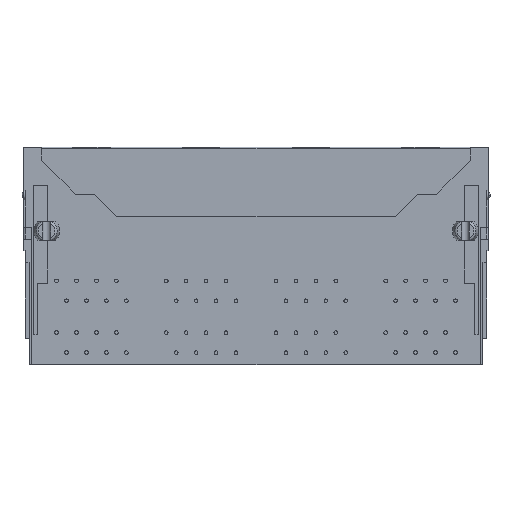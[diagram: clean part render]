
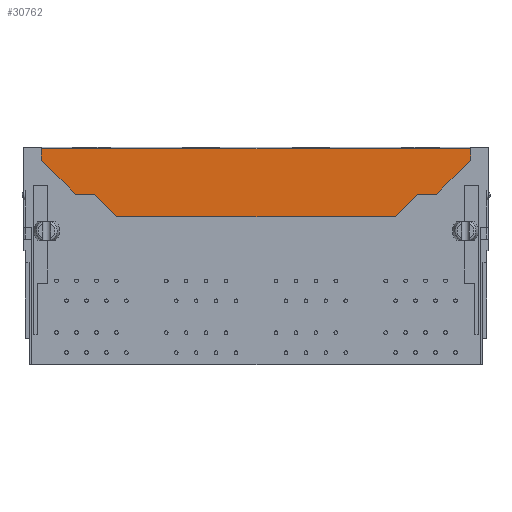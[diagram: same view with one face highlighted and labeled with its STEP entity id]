
A CAD part, front view. The second image highlights one B-rep face of the part: STEP entity #30762.
In plain terms, the highlighted planar face has unit normal (0, -1, 0).
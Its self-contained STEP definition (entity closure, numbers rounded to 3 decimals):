
#456 = ORIENTED_EDGE ( 'NONE', *, *, #10777, .F. ) ;
#544 = LINE ( 'NONE', #26503, #21533 ) ;
#978 = FACE_OUTER_BOUND ( 'NONE', #16393, .T. ) ;
#1443 = DIRECTION ( 'NONE',  ( -1., 0., 0. ) ) ;
#1723 = CARTESIAN_POINT ( 'NONE',  ( -3.415, -13.722, 13.675 ) ) ;
#1857 = CARTESIAN_POINT ( 'NONE',  ( -21.83, -13.722, 7.875 ) ) ;
#2298 = CARTESIAN_POINT ( 'NONE',  ( -21.83, -13.722, 7.875 ) ) ;
#2884 = DIRECTION ( 'NONE',  ( 0., 0., 1. ) ) ;
#3266 = ORIENTED_EDGE ( 'NONE', *, *, #4175, .F. ) ;
#3279 = LINE ( 'NONE', #26081, #36251 ) ;
#3389 = CARTESIAN_POINT ( 'NONE',  ( -17.385, -13.722, 13.675 ) ) ;
#3394 = VECTOR ( 'NONE', #12851, 1000. ) ;
#3419 = LINE ( 'NONE', #20255, #3429 ) ;
#3429 = VECTOR ( 'NONE', #2884, 1000. ) ;
#3450 = DIRECTION ( 'NONE',  ( -1., 0., 0. ) ) ;
#3453 = EDGE_CURVE ( 'NONE', #5558, #27818, #5078, .T. ) ;
#3585 = ORIENTED_EDGE ( 'NONE', *, *, #30915, .F. ) ;
#3896 = EDGE_CURVE ( 'NONE', #29318, #6727, #9897, .T. ) ;
#3957 = DIRECTION ( 'NONE',  ( 0., 0., 1. ) ) ;
#4175 = EDGE_CURVE ( 'NONE', #14484, #7098, #6664, .T. ) ;
#4536 = ORIENTED_EDGE ( 'NONE', *, *, #35418, .F. ) ;
#4713 = DIRECTION ( 'NONE',  ( 1., 0., 0. ) ) ;
#4977 = DIRECTION ( 'NONE',  ( 1., 0., 0. ) ) ;
#5030 = DIRECTION ( 'NONE',  ( -1., 0., 0. ) ) ;
#5078 = LINE ( 'NONE', #1723, #34756 ) ;
#5172 = CARTESIAN_POINT ( 'NONE',  ( -16.58, -13.722, 4.975 ) ) ;
#5355 = CARTESIAN_POINT ( 'NONE',  ( 24.525, -13.722, 13.675 ) ) ;
#5492 = CARTESIAN_POINT ( 'NONE',  ( -26.15, -13.722, 13.675 ) ) ;
#5558 = VERTEX_POINT ( 'NONE', #22928 ) ;
#6577 = VECTOR ( 'NONE', #28278, 1000. ) ;
#6664 = LINE ( 'NONE', #20334, #34781 ) ;
#6710 = EDGE_CURVE ( 'NONE', #7098, #6727, #3419, .T. ) ;
#6727 = VERTEX_POINT ( 'NONE', #5492 ) ;
#6832 = ORIENTED_EDGE ( 'NONE', *, *, #28561, .F. ) ;
#7098 = VERTEX_POINT ( 'NONE', #17227 ) ;
#7584 = CARTESIAN_POINT ( 'NONE',  ( -8.215, -13.722, 13.675 ) ) ;
#7715 = LINE ( 'NONE', #2298, #6577 ) ;
#7779 = DIRECTION ( 'NONE',  ( -1., 0., 0. ) ) ;
#8303 = LINE ( 'NONE', #19714, #31412 ) ;
#8341 = LINE ( 'NONE', #5355, #30804 ) ;
#8346 = VERTEX_POINT ( 'NONE', #10939 ) ;
#8352 = CARTESIAN_POINT ( 'NONE',  ( 24.525, -13.722, 13.675 ) ) ;
#8490 = ORIENTED_EDGE ( 'NONE', *, *, #8745, .F. ) ;
#8745 = EDGE_CURVE ( 'NONE', #29318, #15574, #17919, .T. ) ;
#9446 = VECTOR ( 'NONE', #3450, 1000. ) ;
#9838 = DIRECTION ( 'NONE',  ( -0.695, 0., -0.719 ) ) ;
#9897 = LINE ( 'NONE', #30083, #33571 ) ;
#10227 = LINE ( 'NONE', #12843, #26793 ) ;
#10694 = VECTOR ( 'NONE', #16810, 1000. ) ;
#10761 = ORIENTED_EDGE ( 'NONE', *, *, #27960, .T. ) ;
#10777 = EDGE_CURVE ( 'NONE', #25885, #14484, #7715, .T. ) ;
#10939 = CARTESIAN_POINT ( 'NONE',  ( 28.49, -13.722, 12.195 ) ) ;
#10957 = LINE ( 'NONE', #7584, #21383 ) ;
#11018 = CARTESIAN_POINT ( 'NONE',  ( 24.17, -13.722, 7.875 ) ) ;
#12055 = LINE ( 'NONE', #29060, #9446 ) ;
#12123 = DIRECTION ( 'NONE',  ( -1., 0., 0. ) ) ;
#12843 = CARTESIAN_POINT ( 'NONE',  ( -16.58, -13.722, 4.975 ) ) ;
#12851 = DIRECTION ( 'NONE',  ( -0.695, 0., 0.719 ) ) ;
#12956 = ORIENTED_EDGE ( 'NONE', *, *, #29023, .F. ) ;
#13125 = LINE ( 'NONE', #24519, #31405 ) ;
#13144 = EDGE_CURVE ( 'NONE', #32129, #27818, #10957, .T. ) ;
#13424 = EDGE_CURVE ( 'NONE', #17184, #19678, #12055, .T. ) ;
#14115 = DIRECTION ( 'NONE',  ( 0., 0., -1. ) ) ;
#14484 = VERTEX_POINT ( 'NONE', #1857 ) ;
#15115 = ORIENTED_EDGE ( 'NONE', *, *, #3896, .T. ) ;
#15574 = VERTEX_POINT ( 'NONE', #3389 ) ;
#15893 = EDGE_CURVE ( 'NONE', #32129, #15574, #544, .T. ) ;
#15905 = VECTOR ( 'NONE', #26232, 1000. ) ;
#16109 = VERTEX_POINT ( 'NONE', #8352 ) ;
#16393 = EDGE_LOOP ( 'NONE', ( #8490, #15115, #25648, #3266, #456, #12956, #27890, #24165, #4536, #6832, #16506, #10761, #26961, #25010, #3585, #20342, #18680, #27378 ) ) ;
#16493 = CARTESIAN_POINT ( 'NONE',  ( -8.215, -13.722, 13.675 ) ) ;
#16506 = ORIENTED_EDGE ( 'NONE', *, *, #28420, .F. ) ;
#16810 = DIRECTION ( 'NONE',  ( -1., 0., 0. ) ) ;
#17184 = VERTEX_POINT ( 'NONE', #29316 ) ;
#17227 = CARTESIAN_POINT ( 'NONE',  ( -26.15, -13.722, 12.195 ) ) ;
#17919 = LINE ( 'NONE', #23712, #26164 ) ;
#18037 = DIRECTION ( 'NONE',  ( 1., 0., 0. ) ) ;
#18261 = CARTESIAN_POINT ( 'NONE',  ( -3.415, -13.722, 13.675 ) ) ;
#18353 = CARTESIAN_POINT ( 'NONE',  ( -28.43, -13.722, 13.875 ) ) ;
#18680 = ORIENTED_EDGE ( 'NONE', *, *, #13144, .F. ) ;
#18826 = AXIS2_PLACEMENT_3D ( 'NONE', #18353, #23781, #3957 ) ;
#19512 = CARTESIAN_POINT ( 'NONE',  ( 21.72, -13.722, 7.875 ) ) ;
#19678 = VERTEX_POINT ( 'NONE', #35132 ) ;
#19714 = CARTESIAN_POINT ( 'NONE',  ( 28.49, -13.722, 13.875 ) ) ;
#20082 = VERTEX_POINT ( 'NONE', #26662 ) ;
#20255 = CARTESIAN_POINT ( 'NONE',  ( -26.15, -13.722, 13.875 ) ) ;
#20334 = CARTESIAN_POINT ( 'NONE',  ( -26.15, -13.722, 12.195 ) ) ;
#20342 = ORIENTED_EDGE ( 'NONE', *, *, #3453, .T. ) ;
#20524 = DIRECTION ( 'NONE',  ( -0.707, 0., 0.707 ) ) ;
#20625 = CARTESIAN_POINT ( 'NONE',  ( 28.49, -13.722, 12.195 ) ) ;
#21383 = VECTOR ( 'NONE', #4977, 1000. ) ;
#21527 = DIRECTION ( 'NONE',  ( -1., 0., 0. ) ) ;
#21533 = VECTOR ( 'NONE', #12123, 1000. ) ;
#22163 = VERTEX_POINT ( 'NONE', #26524 ) ;
#22928 = CARTESIAN_POINT ( 'NONE',  ( 5.755, -13.722, 13.675 ) ) ;
#23635 = VECTOR ( 'NONE', #9838, 1000. ) ;
#23712 = CARTESIAN_POINT ( 'NONE',  ( -22.185, -13.722, 13.675 ) ) ;
#23781 = DIRECTION ( 'NONE',  ( 0., 1., 0. ) ) ;
#24021 = VERTEX_POINT ( 'NONE', #5172 ) ;
#24044 = LINE ( 'NONE', #29649, #23635 ) ;
#24165 = ORIENTED_EDGE ( 'NONE', *, *, #29855, .F. ) ;
#24519 = CARTESIAN_POINT ( 'NONE',  ( 5.755, -13.722, 13.675 ) ) ;
#24616 = CARTESIAN_POINT ( 'NONE',  ( 28.49, -13.722, 13.675 ) ) ;
#25010 = ORIENTED_EDGE ( 'NONE', *, *, #13424, .T. ) ;
#25479 = VERTEX_POINT ( 'NONE', #19512 ) ;
#25648 = ORIENTED_EDGE ( 'NONE', *, *, #6710, .F. ) ;
#25885 = VERTEX_POINT ( 'NONE', #33289 ) ;
#26081 = CARTESIAN_POINT ( 'NONE',  ( 19.725, -13.722, 13.675 ) ) ;
#26164 = VECTOR ( 'NONE', #32302, 1000. ) ;
#26232 = DIRECTION ( 'NONE',  ( -0.707, 0., -0.707 ) ) ;
#26503 = CARTESIAN_POINT ( 'NONE',  ( -17.385, -13.722, 13.675 ) ) ;
#26524 = CARTESIAN_POINT ( 'NONE',  ( 18.92, -13.722, 4.975 ) ) ;
#26582 = VERTEX_POINT ( 'NONE', #24616 ) ;
#26662 = CARTESIAN_POINT ( 'NONE',  ( 24.17, -13.722, 7.875 ) ) ;
#26793 = VECTOR ( 'NONE', #1443, 1000. ) ;
#26961 = ORIENTED_EDGE ( 'NONE', *, *, #34391, .F. ) ;
#27378 = ORIENTED_EDGE ( 'NONE', *, *, #15893, .T. ) ;
#27736 = CARTESIAN_POINT ( 'NONE',  ( -22.185, -13.722, 13.675 ) ) ;
#27818 = VERTEX_POINT ( 'NONE', #18261 ) ;
#27890 = ORIENTED_EDGE ( 'NONE', *, *, #35689, .F. ) ;
#27960 = EDGE_CURVE ( 'NONE', #26582, #16109, #8341, .T. ) ;
#28278 = DIRECTION ( 'NONE',  ( -1., 0., 0. ) ) ;
#28420 = EDGE_CURVE ( 'NONE', #26582, #8346, #8303, .T. ) ;
#28561 = EDGE_CURVE ( 'NONE', #8346, #20082, #34277, .T. ) ;
#29023 = EDGE_CURVE ( 'NONE', #24021, #25885, #35840, .T. ) ;
#29060 = CARTESIAN_POINT ( 'NONE',  ( 10.555, -13.722, 13.675 ) ) ;
#29316 = CARTESIAN_POINT ( 'NONE',  ( 19.725, -13.722, 13.675 ) ) ;
#29318 = VERTEX_POINT ( 'NONE', #27736 ) ;
#29563 = PLANE ( 'NONE',  #18826 ) ;
#29649 = CARTESIAN_POINT ( 'NONE',  ( 21.72, -13.722, 7.875 ) ) ;
#29855 = EDGE_CURVE ( 'NONE', #25479, #22163, #24044, .T. ) ;
#30083 = CARTESIAN_POINT ( 'NONE',  ( -26.15, -13.722, 13.675 ) ) ;
#30762 = ADVANCED_FACE ( 'NONE', ( #978 ), #29563, .F. ) ;
#30804 = VECTOR ( 'NONE', #7779, 1000. ) ;
#30915 = EDGE_CURVE ( 'NONE', #5558, #19678, #13125, .T. ) ;
#31199 = LINE ( 'NONE', #11018, #10694 ) ;
#31405 = VECTOR ( 'NONE', #4713, 1000. ) ;
#31412 = VECTOR ( 'NONE', #14115, 1000. ) ;
#32129 = VERTEX_POINT ( 'NONE', #16493 ) ;
#32302 = DIRECTION ( 'NONE',  ( 1., 0., 0. ) ) ;
#33210 = CARTESIAN_POINT ( 'NONE',  ( -19.38, -13.722, 7.875 ) ) ;
#33289 = CARTESIAN_POINT ( 'NONE',  ( -19.38, -13.722, 7.875 ) ) ;
#33571 = VECTOR ( 'NONE', #5030, 1000. ) ;
#34277 = LINE ( 'NONE', #20625, #15905 ) ;
#34391 = EDGE_CURVE ( 'NONE', #17184, #16109, #3279, .T. ) ;
#34756 = VECTOR ( 'NONE', #21527, 1000. ) ;
#34781 = VECTOR ( 'NONE', #20524, 1000. ) ;
#35132 = CARTESIAN_POINT ( 'NONE',  ( 10.555, -13.722, 13.675 ) ) ;
#35418 = EDGE_CURVE ( 'NONE', #20082, #25479, #31199, .T. ) ;
#35689 = EDGE_CURVE ( 'NONE', #22163, #24021, #10227, .T. ) ;
#35840 = LINE ( 'NONE', #33210, #3394 ) ;
#36251 = VECTOR ( 'NONE', #18037, 1000. ) ;
